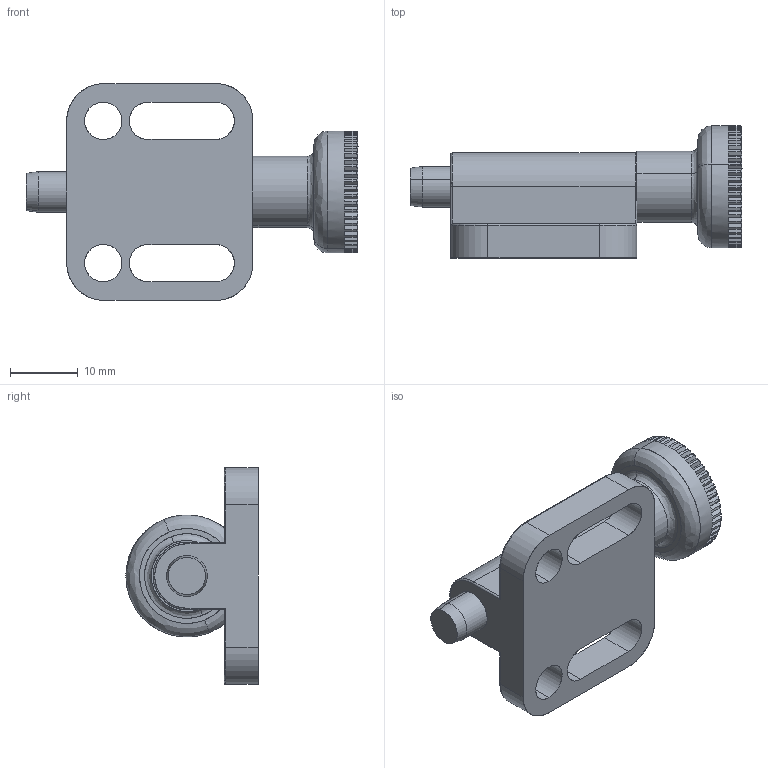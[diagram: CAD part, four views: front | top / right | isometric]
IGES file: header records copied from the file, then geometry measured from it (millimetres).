
Start section: SolidWorks IGES file using analytic representation for surfaces
Global section: file name: C:\HEMSIDA\cad\SLDPRT_2007\gn417\\gn417b_6.igs; native system: SolidWorks 2007; preprocessor: SolidWorks 2007; author: Administrator; date: 070919.153004; units: millimetre
Bounding box: 49 x 19.5 x 32 mm (x, y, z)
Surface area: 5270 mm2 (no closed solid volume)
Topology: 0 solids, 0 shells, 269 faces, 2928 edges, 2926 vertices
Faces by surface type: bspline 232, revolution 37
